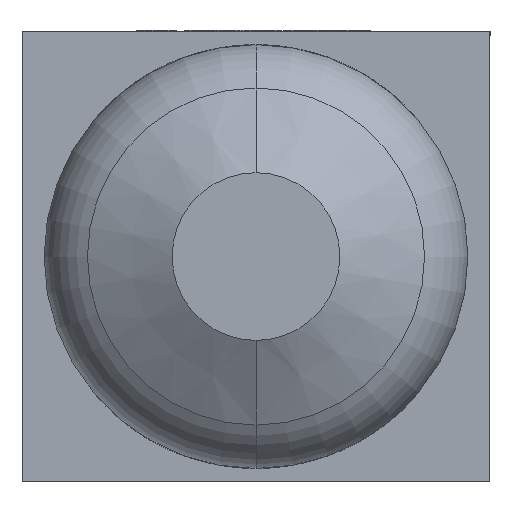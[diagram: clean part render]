
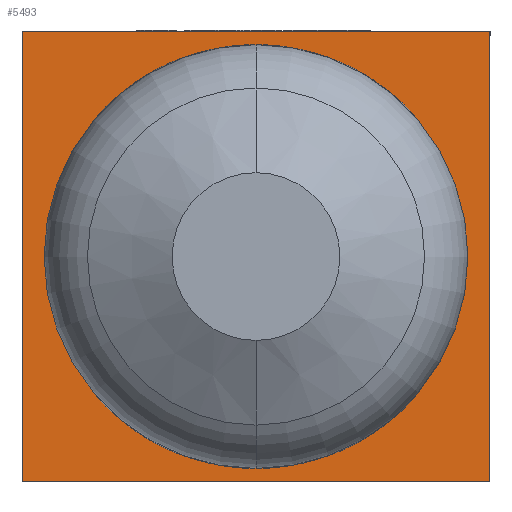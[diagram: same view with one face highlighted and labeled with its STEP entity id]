
A CAD part, front view. The second image highlights one B-rep face of the part: STEP entity #5493.
In plain terms, the highlighted planar face has unit normal (0, -1, 0).
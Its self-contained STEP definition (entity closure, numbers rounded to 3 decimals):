
#572 = VERTEX_POINT ( 'NONE', #10106 ) ;
#670 = DIRECTION ( 'NONE',  ( 1., 0., 0. ) ) ;
#980 = VERTEX_POINT ( 'NONE', #9691 ) ;
#2074 = PLANE ( 'NONE',  #9225 ) ;
#2588 = CARTESIAN_POINT ( 'NONE',  ( -26.5, -25.5, 25.5 ) ) ;
#2636 = EDGE_CURVE ( 'NONE', #5217, #7318, #13249, .T. ) ;
#2658 = VECTOR ( 'NONE', #12767, 1000. ) ;
#2962 = CARTESIAN_POINT ( 'NONE',  ( -26.5, -25.5, -25.5 ) ) ;
#3202 = LINE ( 'NONE', #8799, #10432 ) ;
#4269 = EDGE_CURVE ( 'NONE', #572, #980, #6942, .T. ) ;
#5083 = DIRECTION ( 'NONE',  ( 0., 0., -1. ) ) ;
#5217 = VERTEX_POINT ( 'NONE', #8986 ) ;
#5381 = VECTOR ( 'NONE', #5549, 1000. ) ;
#5493 = ADVANCED_FACE ( 'NONE', ( #13435 ), #2074, .F. ) ;
#5549 = DIRECTION ( 'NONE',  ( 0., 0., -1. ) ) ;
#6030 = ORIENTED_EDGE ( 'NONE', *, *, #4269, .T. ) ;
#6717 = CARTESIAN_POINT ( 'NONE',  ( 26.5, -25.5, 25.5 ) ) ;
#6942 = LINE ( 'NONE', #2962, #2658 ) ;
#7318 = VERTEX_POINT ( 'NONE', #9497 ) ;
#8214 = DIRECTION ( 'NONE',  ( 0., 1., 0. ) ) ;
#8464 = ORIENTED_EDGE ( 'NONE', *, *, #8888, .T. ) ;
#8799 = CARTESIAN_POINT ( 'NONE',  ( -26.5, -25.5, 25.5 ) ) ;
#8888 = EDGE_CURVE ( 'NONE', #5217, #572, #3202, .T. ) ;
#8986 = CARTESIAN_POINT ( 'NONE',  ( -26.5, -25.5, 25.5 ) ) ;
#9225 = AXIS2_PLACEMENT_3D ( 'NONE', #2588, #8214, #11685 ) ;
#9497 = CARTESIAN_POINT ( 'NONE',  ( 26.5, -25.5, 25.5 ) ) ;
#9691 = CARTESIAN_POINT ( 'NONE',  ( 26.5, -25.5, -25.5 ) ) ;
#9993 = LINE ( 'NONE', #6717, #5381 ) ;
#10043 = ORIENTED_EDGE ( 'NONE', *, *, #2636, .F. ) ;
#10106 = CARTESIAN_POINT ( 'NONE',  ( -26.5, -25.5, -25.5 ) ) ;
#10134 = VECTOR ( 'NONE', #670, 1000. ) ;
#10432 = VECTOR ( 'NONE', #5083, 1000. ) ;
#11362 = EDGE_CURVE ( 'NONE', #7318, #980, #9993, .T. ) ;
#11535 = EDGE_LOOP ( 'NONE', ( #6030, #12460, #10043, #8464 ) ) ;
#11685 = DIRECTION ( 'NONE',  ( -1., 0., 0. ) ) ;
#12460 = ORIENTED_EDGE ( 'NONE', *, *, #11362, .F. ) ;
#12767 = DIRECTION ( 'NONE',  ( 1., 0., 0. ) ) ;
#13019 = CARTESIAN_POINT ( 'NONE',  ( -26.5, -25.5, 25.5 ) ) ;
#13249 = LINE ( 'NONE', #13019, #10134 ) ;
#13435 = FACE_OUTER_BOUND ( 'NONE', #11535, .T. ) ;
